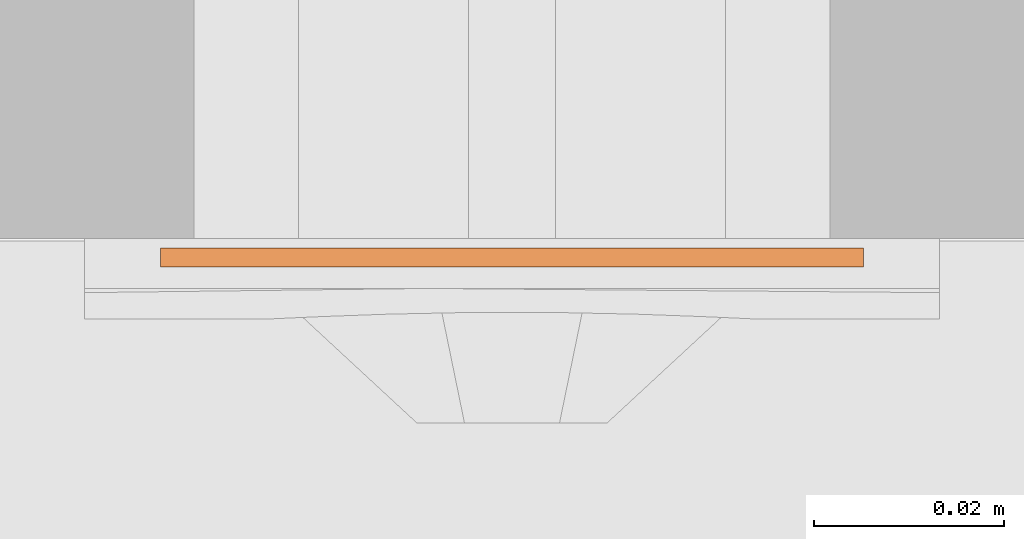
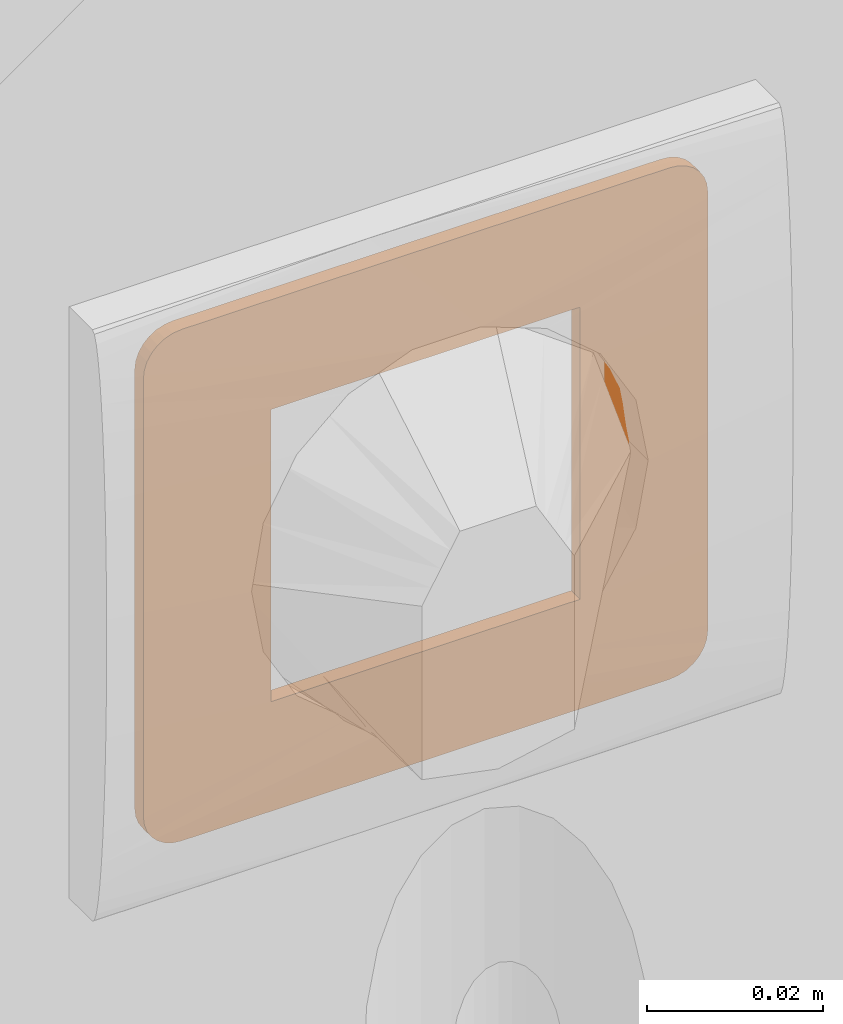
# One storey, part 6 of 8: 1 proxy.
"""IFC2X3 building model written with IfcOpenShell, lengths in metres."""

from ifc_helpers import new_model, entity, si_unit, converted_unit, derived_unit, direction, frame, frame_2d, origin, place, context, subcontext, project, spatial, polyline, circle_curve, parameter, trimmed, segment, composite_curve, outline, extrude, source, transform, mapped, material, type_object, type_shapes, element, save


model = new_model("IFC2X3")

# Units and contexts
model_context = context("Model", 3, precision=1e-05, world=origin(), true_north=direction((6.123031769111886e-17, 1.0)))
body_context = subcontext(model_context, "Body", "Model", "MODEL_VIEW")
ifc_project = project(units=[si_unit("LENGTHUNIT", "METRE"), si_unit("AREAUNIT", "SQUARE_METRE"), si_unit("VOLUMEUNIT", "CUBIC_METRE"), converted_unit("PLANEANGLEUNIT", "DEGREE", entity("IfcPlaneAngleMeasure", 0.017453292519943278), si_unit("PLANEANGLEUNIT", "RADIAN"), dimensions=[0, 0, 0, 0, 0, 0, 0]), si_unit("MASSUNIT", "GRAM", prefix="KILO"), derived_unit("MASSDENSITYUNIT", [(si_unit("MASSUNIT", "GRAM", prefix="KILO"), 1), (si_unit("LENGTHUNIT", "METRE"), -3)]), derived_unit("IONCONCENTRATIONUNIT", [(si_unit("MASSUNIT", "GRAM", prefix="KILO"), 1), (si_unit("LENGTHUNIT", "METRE"), -3)]), derived_unit("MOMENTOFINERTIAUNIT", [(si_unit("LENGTHUNIT", "METRE"), 4)]), si_unit("TIMEUNIT", "SECOND"), si_unit("FREQUENCYUNIT", "HERTZ"), si_unit("THERMODYNAMICTEMPERATUREUNIT", "DEGREE_CELSIUS"), derived_unit("THERMALTRANSMITTANCEUNIT", [(si_unit("MASSUNIT", "GRAM", prefix="KILO"), 1), (si_unit("THERMODYNAMICTEMPERATUREUNIT", "KELVIN"), -1), (si_unit("TIMEUNIT", "SECOND"), -3)]), derived_unit("THERMALCONDUCTANCEUNIT", [(si_unit("MASSUNIT", "GRAM", prefix="KILO"), 1), (si_unit("THERMODYNAMICTEMPERATUREUNIT", "KELVIN"), -1), (si_unit("TIMEUNIT", "SECOND"), -3), (si_unit("LENGTHUNIT", "METRE"), 1)]), derived_unit("VOLUMETRICFLOWRATEUNIT", [(si_unit("LENGTHUNIT", "METRE", prefix="DECI"), 3), (si_unit("TIMEUNIT", "SECOND"), -1)]), derived_unit("MASSFLOWRATEUNIT", [(si_unit("MASSUNIT", "GRAM", prefix="KILO"), 1), (si_unit("TIMEUNIT", "SECOND"), -1)]), derived_unit("ROTATIONALFREQUENCYUNIT", [(si_unit("TIMEUNIT", "SECOND"), -1)]), si_unit("ELECTRICCURRENTUNIT", "AMPERE"), si_unit("ELECTRICVOLTAGEUNIT", "VOLT"), si_unit("POWERUNIT", "WATT"), si_unit("FORCEUNIT", "NEWTON", prefix="KILO"), si_unit("ILLUMINANCEUNIT", "LUX"), si_unit("LUMINOUSFLUXUNIT", "LUMEN"), si_unit("LUMINOUSINTENSITYUNIT", "CANDELA"), si_unit("ENERGYUNIT", "JOULE"), derived_unit("USERDEFINED", [(si_unit("MASSUNIT", "GRAM", prefix="KILO"), -1), (si_unit("LENGTHUNIT", "METRE"), -2), (si_unit("TIMEUNIT", "SECOND"), 3), (si_unit("LUMINOUSFLUXUNIT", "LUMEN"), 1)]), derived_unit("USERDEFINED", [(si_unit("MASSUNIT", "GRAM", prefix="KILO"), 1), (si_unit("TIMEUNIT", "SECOND"), -3), (si_unit("LENGTHUNIT", "METRE"), 3), (si_unit("ELECTRICCURRENTUNIT", "AMPERE"), -2)]), derived_unit("SOUNDPOWERUNIT", [(si_unit("MASSUNIT", "GRAM", prefix="KILO"), 1), (si_unit("TIMEUNIT", "SECOND"), -3), (si_unit("LENGTHUNIT", "METRE"), 2)]), derived_unit("SOUNDPRESSUREUNIT", [(si_unit("MASSUNIT", "GRAM", prefix="KILO"), 1), (si_unit("LENGTHUNIT", "METRE"), -1), (si_unit("TIMEUNIT", "SECOND"), -2)]), derived_unit("LINEARVELOCITYUNIT", [(si_unit("LENGTHUNIT", "METRE"), 1), (si_unit("TIMEUNIT", "SECOND"), -1)]), si_unit("PRESSUREUNIT", "PASCAL"), derived_unit("USERDEFINED", [(si_unit("MASSUNIT", "GRAM", prefix="KILO"), 1), (si_unit("LENGTHUNIT", "METRE"), -2), (si_unit("TIMEUNIT", "SECOND"), -2)]), derived_unit("LINEARFORCEUNIT", [(si_unit("MASSUNIT", "GRAM", prefix="KILO"), 1), (si_unit("TIMEUNIT", "SECOND"), -2)]), derived_unit("PLANARFORCEUNIT", [(si_unit("MASSUNIT", "GRAM", prefix="KILO"), 1), (si_unit("LENGTHUNIT", "METRE"), -1), (si_unit("TIMEUNIT", "SECOND"), -2)]), derived_unit("SPECIFICHEATCAPACITYUNIT", [(si_unit("THERMODYNAMICTEMPERATUREUNIT", "KELVIN"), -1), (si_unit("LENGTHUNIT", "METRE"), 2), (si_unit("TIMEUNIT", "SECOND"), -2)]), derived_unit("HEATFLUXDENSITYUNIT", [(si_unit("MASSUNIT", "GRAM", prefix="KILO"), 1), (si_unit("TIMEUNIT", "SECOND"), -3)]), derived_unit("HEATINGVALUEUNIT", [(si_unit("LENGTHUNIT", "METRE"), 2), (si_unit("TIMEUNIT", "SECOND"), -2)]), derived_unit("VAPORPERMEABILITYUNIT", [(si_unit("LENGTHUNIT", "METRE"), -1), (si_unit("TIMEUNIT", "SECOND"), 1)]), derived_unit("DYNAMICVISCOSITYUNIT", [(si_unit("MASSUNIT", "GRAM", prefix="KILO"), 1), (si_unit("TIMEUNIT", "SECOND"), -1), (si_unit("LENGTHUNIT", "METRE"), -1)]), derived_unit("THERMALEXPANSIONCOEFFICIENTUNIT", [(si_unit("THERMODYNAMICTEMPERATUREUNIT", "KELVIN"), -1)]), derived_unit("MODULUSOFELASTICITYUNIT", [(si_unit("MASSUNIT", "GRAM", prefix="KILO"), 1), (si_unit("LENGTHUNIT", "METRE"), -1), (si_unit("TIMEUNIT", "SECOND"), -2)]), derived_unit("ISOTHERMALMOISTURECAPACITYUNIT", [(si_unit("MASSUNIT", "GRAM", prefix="KILO"), -1), (si_unit("LENGTHUNIT", "METRE"), 3)]), derived_unit("MOISTUREDIFFUSIVITYUNIT", [(si_unit("TIMEUNIT", "SECOND"), -1), (si_unit("LENGTHUNIT", "METRE"), 2)]), derived_unit("MASSPERLENGTHUNIT", [(si_unit("MASSUNIT", "GRAM", prefix="KILO"), 1), (si_unit("LENGTHUNIT", "METRE"), -1)]), derived_unit("THERMALRESISTANCEUNIT", [(si_unit("MASSUNIT", "GRAM", prefix="KILO"), -1), (si_unit("TIMEUNIT", "SECOND"), 3), (si_unit("THERMODYNAMICTEMPERATUREUNIT", "KELVIN"), 1)]), derived_unit("ACCELERATIONUNIT", [(si_unit("LENGTHUNIT", "METRE"), 1), (si_unit("TIMEUNIT", "SECOND"), -2)]), derived_unit("ANGULARVELOCITYUNIT", [(si_unit("TIMEUNIT", "SECOND"), -1), (si_unit("PLANEANGLEUNIT", "RADIAN"), 1)]), derived_unit("LINEARSTIFFNESSUNIT", [(si_unit("MASSUNIT", "GRAM", prefix="KILO"), 1), (si_unit("TIMEUNIT", "SECOND"), -2)]), derived_unit("WARPINGCONSTANTUNIT", [(si_unit("LENGTHUNIT", "METRE"), 6)]), derived_unit("LINEARMOMENTUNIT", [(si_unit("MASSUNIT", "GRAM", prefix="KILO"), 1), (si_unit("LENGTHUNIT", "METRE"), 1), (si_unit("TIMEUNIT", "SECOND"), -2)]), derived_unit("TORQUEUNIT", [(si_unit("MASSUNIT", "GRAM", prefix="KILO"), 1), (si_unit("LENGTHUNIT", "METRE"), 2), (si_unit("TIMEUNIT", "SECOND"), -2)])], contexts=[model_context])

# Site, building, storey
site_placement = place(None, origin())
site = spatial("IfcSite", under=ifc_project, at=site_placement, Name="Default", CompositionType="ELEMENT")
building_placement = place(site_placement, origin())
building = spatial("IfcBuilding", under=site, at=building_placement, CompositionType="ELEMENT")
storey_placement = place(building_placement, origin())
storey = spatial("IfcBuildingStorey", under=building, at=storey_placement, Name="Niveau 0", CompositionType="ELEMENT", Elevation=-1.949160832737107e-14)

# Proxy
ifc_material = material(Name="Plastique, noir opaque")
building_element_proxy_type = type_object("IfcBuildingElementProxyType", Name="Legrand support universel-20181:1 poste", PredefinedType="NOTDEFINED", material=ifc_material)
shared_shape = source(origin(), body_context, "Body", "SweptSolid", [
    extrude(outline(composite_curve([segment(polyline([(-0.03200000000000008, -0.03544999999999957), (0.03200000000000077, -0.03544999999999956)]), True, "CONTINUOUS"), segment(trimmed(circle_curve(frame_2d((0.032000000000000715, -0.030449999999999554), x_axis=(1.0, 0.0)), 0.005), [parameter(270.0000000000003)], [parameter(4.0711099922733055e-13)], True, "PARAMETER"), True, "CONTINUOUS"), segment(polyline([(0.037000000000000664, -0.03044999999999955), (0.037000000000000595, 0.03044999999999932)]), True, "CONTINUOUS"), segment(trimmed(circle_curve(frame_2d((0.03200000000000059, 0.030449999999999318), x_axis=(1.0, 0.0)), 0.005), [parameter(0.0)], [parameter(90.00000000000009)], True, "PARAMETER"), True, "CONTINUOUS"), segment(polyline([(0.03200000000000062, 0.03544999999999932), (-0.03200000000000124, 0.03544999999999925)]), True, "CONTINUOUS"), segment(trimmed(circle_curve(frame_2d((-0.0320000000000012, 0.03044999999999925), x_axis=(1.0, 0.0)), 0.005000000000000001), [parameter(90.0000000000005)], [parameter(179.99999999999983)], True, "PARAMETER"), True, "CONTINUOUS"), segment(polyline([(-0.037000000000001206, 0.030449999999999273), (-0.03700000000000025, -0.030449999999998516)]), True, "CONTINUOUS"), segment(trimmed(circle_curve(frame_2d((-0.03200000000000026, -0.030449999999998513), x_axis=(1.0, 0.0)), 0.005), [parameter(179.99999999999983)], [parameter(269.9999999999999)], True, "PARAMETER"), True, "CONTINUOUS")], self_intersect=False), holes=[polyline([(-0.020249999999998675, -0.020250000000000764), (-0.020249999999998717, 0.02024999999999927), (0.020250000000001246, 0.02024999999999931), (0.020250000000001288, -0.020250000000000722), (-0.020249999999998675, -0.020250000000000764)])]), frame((0.12499999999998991, 0.1015, 0.2498891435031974), z_axis=(0.0, 1.0, 0.0), x_axis=(1.0, 0.0, 0.0)), (0.0, 0.0, 1.0), 0.002000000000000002),
])
type_shapes(building_element_proxy_type, [shared_shape])
proxy_placement = place(storey_placement, frame((-8.558577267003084, 2.950026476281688, 1.800773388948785), z_axis=(0.0, 0.0, 1.0), x_axis=(-1.0, 0.0, 0.0)))
element("IfcBuildingElementProxy", 1, at=proxy_placement, inside=storey, type_object=building_element_proxy_type, material=ifc_material, Name="Legrand support universel-20181:1 poste", ObjectType="Legrand support universel-20181:1 poste", context=body_context, shape_type="MappedRepresentation", body=[
    mapped(shared_shape, transform((0.0, 0.0, 0.0), scale=1.0)),
])

save(model, "model.ifc")
